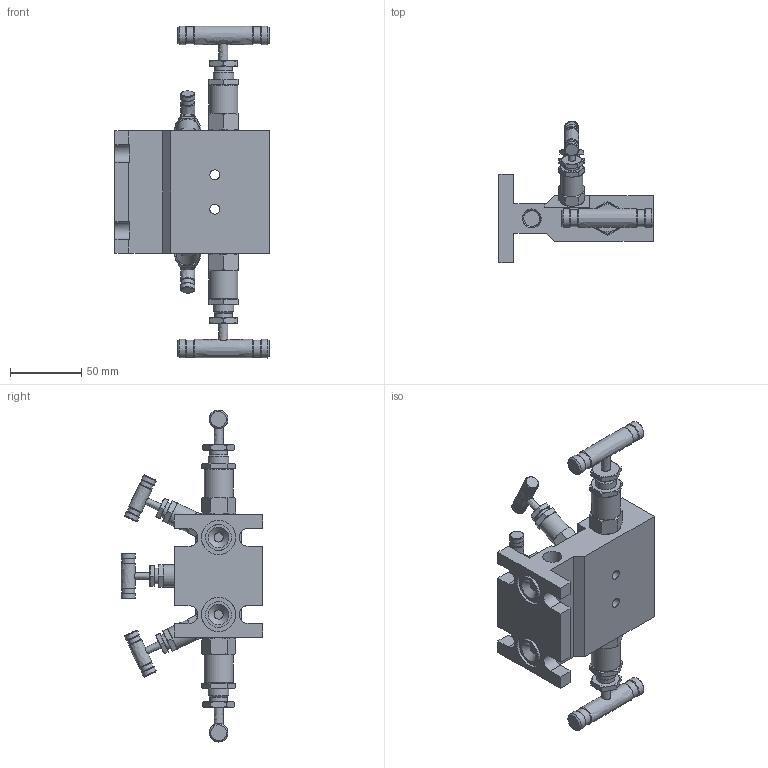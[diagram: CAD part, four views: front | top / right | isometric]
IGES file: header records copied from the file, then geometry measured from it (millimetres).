
Global section: file name: SM5VF-F-8N-SFS-S316; native system: Autodesk Inventor 2016; preprocessor: unknown; author: 이승민,,11, ; organization: 0; date: 20161216.192543; units: millimetre
Bounding box: 108 x 99.22 x 232.52 mm (x, y, z)
Volume: 338339.1 mm3; surface area: 71749.3 mm2
Topology: 6 solids, 6 shells, 491 faces, 1225 edges, 802 vertices
Faces by surface type: bspline 491
